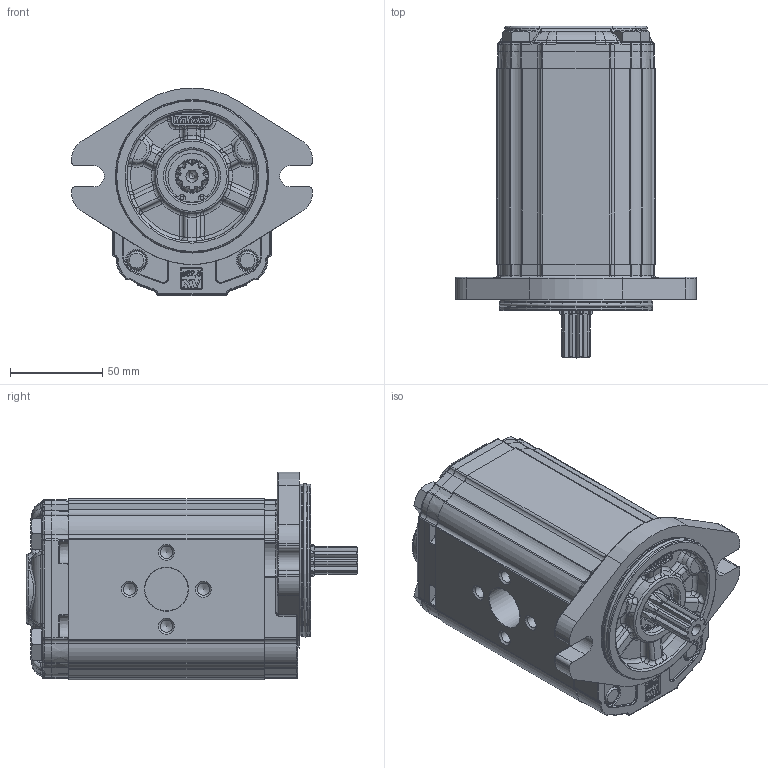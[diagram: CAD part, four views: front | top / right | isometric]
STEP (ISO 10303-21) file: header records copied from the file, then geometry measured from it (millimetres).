
FILE_DESCRIPTION(/* description */ ('Unknown'),/* implementation_level */ '2;1');
FILE_NAME(/* name */ 'X2U6351IQPA',/* time_stamp */ '2021-04-14T20:32:19+02:00',/* author */ ('Unknown'),/* organization */ ('Unknown'),/* preprocessor_version */ 'ST-DEVELOPER v16.7',/* originating_system */ 'Solid Edge',/* authorisation */ 'Unknown');
FILE_SCHEMA (('AUTOMOTIVE_DESIGN {1 0 10303 214 3 1 1}'));
Products named in the file (5): X2U6351IQPA; X2U51; 2I; X2QPH106; XU219-A
Assembly tree (4 placements, depth 2):
  X2U6351IQPA
    X2U51
    2I
    X2QPH106
    XU219-A
Bounding box: 130.38 x 179.7 x 112.3 mm (x, y, z)
Volume: 1077758.7 mm3; surface area: 139506.9 mm2
Topology: 4 solids, 5 shells, 2230 faces, 5510 edges, 3347 vertices
Faces by surface type: cylinder 660, plane 592, bspline 537, torus 286, cone 117, sphere 38
Full cylindrical faces by diameter (mm): 2 x2, 6.647 x8, 10 x4, 10.5 x4, 11 x2, 11.5 x4, 16 x4, 17.42 x1, 18 x1, 20 x1, 20.595 x1, 23.332 x1, 23.5 x1, 25.834 x1, 28.5 x1, 28.56 x1, 28.57 x1, 28.8 x1, 30.4 x1, 79.6 x2, 82.5 x2
Entity records: 93010 total; most frequent: CARTESIAN_POINT 30285, ORIENTED_EDGE 10556, DIRECTION 8965, EDGE_CURVE 5278, AXIS2_PLACEMENT_3D 3437, VERTEX_POINT 3273, FACE_BOUND 2461, EDGE_LOOP 2452
